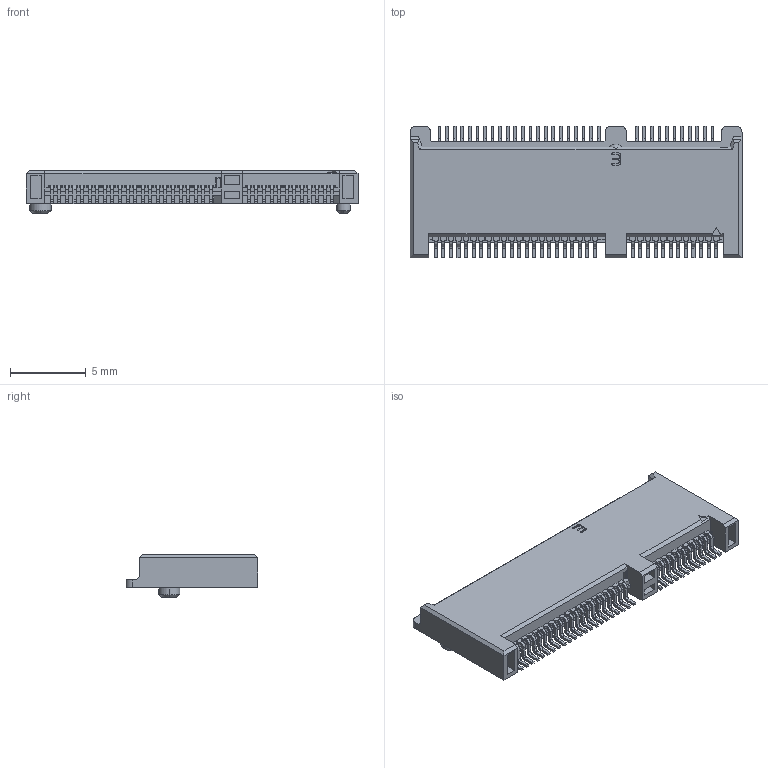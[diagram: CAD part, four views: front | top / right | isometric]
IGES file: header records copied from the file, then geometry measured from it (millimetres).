
Start section: SolidWorks IGES file using analytic representation for surfaces
Global section: file name: Q:\Kamikawa_Hisako\170121\MK\H2_201\24_6411_067_201_829E.IGS; native system: SolidWorks 2014; preprocessor: SolidWorks 2014; author: 151066016; date: 170125.095958; units: millimetre
Bounding box: 21.9 x 8.7 x 2.87 mm (x, y, z)
Surface area: 716.1 mm2 (no closed solid volume)
Topology: 0 solids, 0 shells, 1827 faces, 11952 edges, 11951 vertices
Faces by surface type: bspline 1327, revolution 500
